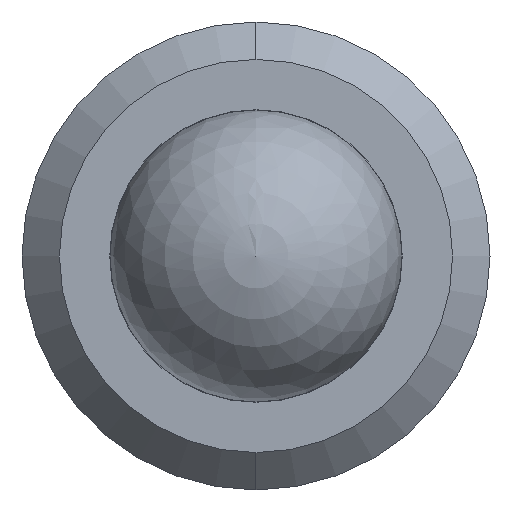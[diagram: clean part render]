
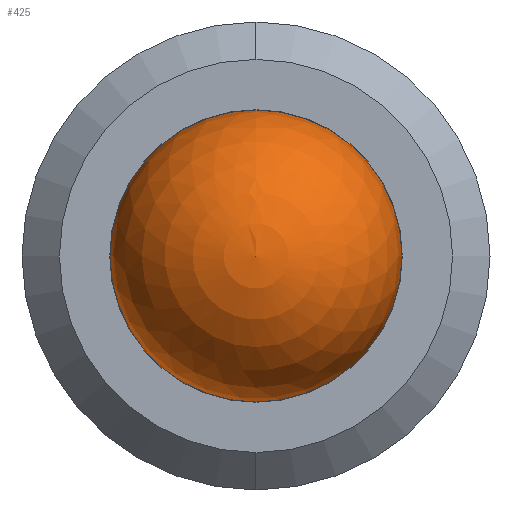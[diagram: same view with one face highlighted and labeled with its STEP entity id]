
A CAD part, left-side view. The second image highlights one B-rep face of the part: STEP entity #425.
In plain terms, the highlighted spherical face has radius 1.984 mm.
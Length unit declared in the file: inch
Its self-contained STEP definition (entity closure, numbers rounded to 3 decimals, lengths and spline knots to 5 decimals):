
#4 = EDGE_CURVE ( 'NONE', #484, #453, #581, .T. ) ;
#22 = CARTESIAN_POINT ( 'NONE',  ( 0., 0., 0. ) ) ;
#55 = EDGE_CURVE ( 'NONE', #484, #453, #378, .T. ) ;
#68 = DIRECTION ( 'NONE',  ( 0., 0., 1. ) ) ;
#109 = FACE_OUTER_BOUND ( 'NONE', #274, .T. ) ;
#118 = DIRECTION ( 'NONE',  ( 0., 0., 1. ) ) ;
#242 = AXIS2_PLACEMENT_3D ( 'NONE', #22, #263, #68 ) ;
#263 = DIRECTION ( 'NONE',  ( -1., 0., 0. ) ) ;
#274 = EDGE_LOOP ( 'NONE', ( #275, #365 ) ) ;
#275 = ORIENTED_EDGE ( 'NONE', *, *, #55, .F. ) ;
#311 = CARTESIAN_POINT ( 'NONE',  ( 0., 0., 0. ) ) ;
#365 = ORIENTED_EDGE ( 'NONE', *, *, #4, .T. ) ;
#378 = CIRCLE ( 'NONE', #532, 0.07813 ) ;
#411 = CARTESIAN_POINT ( 'NONE',  ( 0., -0.07813, 0. ) ) ;
#425 = ADVANCED_FACE ( 'NONE', ( #109 ), #502, .T. ) ;
#453 = VERTEX_POINT ( 'NONE', #411 ) ;
#466 = CARTESIAN_POINT ( 'NONE',  ( 0., 0., 0. ) ) ;
#484 = VERTEX_POINT ( 'NONE', #527 ) ;
#502 = SPHERICAL_SURFACE ( 'NONE', #242, 0.07813 ) ;
#513 = DIRECTION ( 'NONE',  ( 1., 0., 0. ) ) ;
#527 = CARTESIAN_POINT ( 'NONE',  ( 0., 0.07813, 0. ) ) ;
#532 = AXIS2_PLACEMENT_3D ( 'NONE', #466, #513, #561 ) ;
#541 = AXIS2_PLACEMENT_3D ( 'NONE', #311, #568, #118 ) ;
#561 = DIRECTION ( 'NONE',  ( 0., 0., -1. ) ) ;
#568 = DIRECTION ( 'NONE',  ( -1., 0., 0. ) ) ;
#581 = CIRCLE ( 'NONE', #541, 0.07813 ) ;
